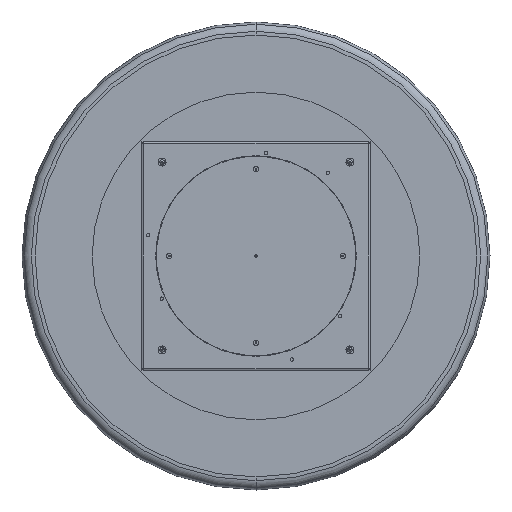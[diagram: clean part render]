
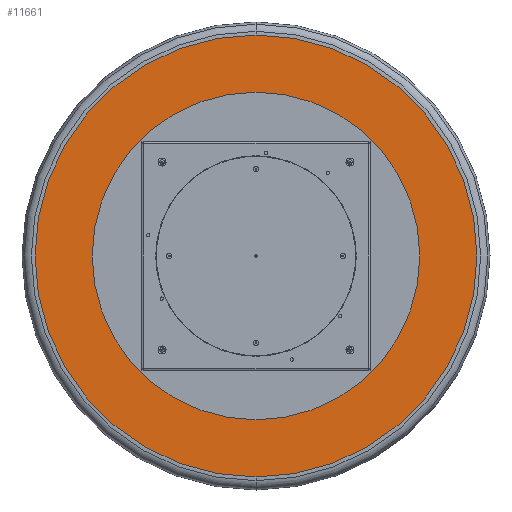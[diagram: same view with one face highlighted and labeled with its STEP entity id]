
A CAD part, front view. The second image highlights one B-rep face of the part: STEP entity #11661.
In plain terms, the highlighted planar face has unit normal (0, -1, 0).
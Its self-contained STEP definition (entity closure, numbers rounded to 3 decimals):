
#175 = AXIS2_PLACEMENT_3D ( 'NONE', #5344, #471, #15569 ) ;
#471 = DIRECTION ( 'NONE',  ( 0., -1., 0. ) ) ;
#517 = DIRECTION ( 'NONE',  ( 0., -1., 0. ) ) ;
#748 = CIRCLE ( 'NONE', #6800, 490. ) ;
#961 = VERTEX_POINT ( 'NONE', #2128 ) ;
#996 = DIRECTION ( 'NONE',  ( 0., 0., 1. ) ) ;
#1307 = CARTESIAN_POINT ( 'NONE',  ( 0., -56., 0. ) ) ;
#2037 = ORIENTED_EDGE ( 'NONE', *, *, #14686, .F. ) ;
#2066 = EDGE_CURVE ( 'NONE', #961, #11457, #748, .T. ) ;
#2128 = CARTESIAN_POINT ( 'NONE',  ( 0., -56., -490. ) ) ;
#2949 = DIRECTION ( 'NONE',  ( 0., 0., -1. ) ) ;
#3328 = ORIENTED_EDGE ( 'NONE', *, *, #2066, .F. ) ;
#3623 = DIRECTION ( 'NONE',  ( 0., 1., 0. ) ) ;
#4321 = CARTESIAN_POINT ( 'NONE',  ( 0., -56., 0. ) ) ;
#5158 = VERTEX_POINT ( 'NONE', #5749 ) ;
#5344 = CARTESIAN_POINT ( 'NONE',  ( 0., -56., 0. ) ) ;
#5416 = AXIS2_PLACEMENT_3D ( 'NONE', #10685, #15719, #2949 ) ;
#5559 = DIRECTION ( 'NONE',  ( 0., 0., -1. ) ) ;
#5655 = AXIS2_PLACEMENT_3D ( 'NONE', #7266, #8567, #996 ) ;
#5697 = ORIENTED_EDGE ( 'NONE', *, *, #9049, .F. ) ;
#5723 = AXIS2_PLACEMENT_3D ( 'NONE', #1307, #3623, #12360 ) ;
#5749 = CARTESIAN_POINT ( 'NONE',  ( 0., -56., -661. ) ) ;
#6123 = ORIENTED_EDGE ( 'NONE', *, *, #14894, .F. ) ;
#6800 = AXIS2_PLACEMENT_3D ( 'NONE', #4321, #517, #5559 ) ;
#7266 = CARTESIAN_POINT ( 'NONE',  ( 0., -56., 0. ) ) ;
#8567 = DIRECTION ( 'NONE',  ( 0., 1., 0. ) ) ;
#8849 = CIRCLE ( 'NONE', #175, 490. ) ;
#9049 = EDGE_CURVE ( 'NONE', #5158, #11083, #9594, .T. ) ;
#9195 = FACE_BOUND ( 'NONE', #10900, .T. ) ;
#9594 = CIRCLE ( 'NONE', #5655, 661. ) ;
#10685 = CARTESIAN_POINT ( 'NONE',  ( 0., -56., 661. ) ) ;
#10900 = EDGE_LOOP ( 'NONE', ( #3328, #6123 ) ) ;
#11083 = VERTEX_POINT ( 'NONE', #15321 ) ;
#11457 = VERTEX_POINT ( 'NONE', #14621 ) ;
#11661 = ADVANCED_FACE ( 'NONE', ( #9195, #15562 ), #15472, .T. ) ;
#12360 = DIRECTION ( 'NONE',  ( 0., 0., 1. ) ) ;
#14621 = CARTESIAN_POINT ( 'NONE',  ( 0., -56., 490. ) ) ;
#14686 = EDGE_CURVE ( 'NONE', #11083, #5158, #16249, .T. ) ;
#14894 = EDGE_CURVE ( 'NONE', #11457, #961, #8849, .T. ) ;
#15160 = EDGE_LOOP ( 'NONE', ( #2037, #5697 ) ) ;
#15321 = CARTESIAN_POINT ( 'NONE',  ( 0., -56., 661. ) ) ;
#15472 = PLANE ( 'NONE',  #5416 ) ;
#15562 = FACE_OUTER_BOUND ( 'NONE', #15160, .T. ) ;
#15569 = DIRECTION ( 'NONE',  ( 0., 0., -1. ) ) ;
#15719 = DIRECTION ( 'NONE',  ( 0., -1., 0. ) ) ;
#16249 = CIRCLE ( 'NONE', #5723, 661. ) ;
